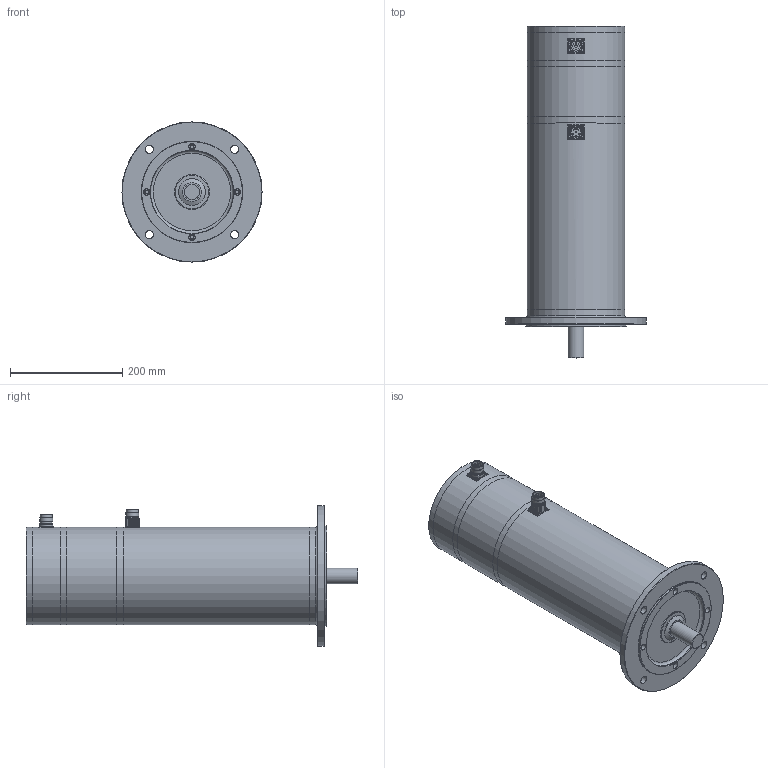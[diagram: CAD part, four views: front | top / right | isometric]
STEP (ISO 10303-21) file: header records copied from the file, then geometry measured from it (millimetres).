
FILE_DESCRIPTION(/* description */ (''),/* implementation_level */ '2;1');
FILE_NAME(/* name */ 'ksa_8x20e_mc_ixx',/* time_stamp */ '2007-03-14T10:42:39+01:00',/* author */ (''),/* organization */ (''),/* preprocessor_version */ 'ST-DEVELOPER v8',/* originating_system */ 'UNIGRAPHICS SOLUTIONS - UNIGRAPHICS 18.0',/* authorisation */ '');
FILE_SCHEMA (('AUTOMOTIVE_DESIGN { 1 2 10303 214 0 1 1 1 }'));
Length unit declared in the file: millimetre
Products named in the file (12): 014261_0; 064305_0; 089286_0; 089285_0; 118030_0; 014260_0; 06331401_0; DIN3760_org_A30x42x7_0; Rotor_SA 84.. E_0; Gehaeuse SA 84.. E_0; 118025_0; KSA8412_E-MC-I27_0
Assembly tree (12 placements, depth 2):
  KSA8412_E-MC-I27_0
    118025_0
    Gehaeuse SA 84.. E_0
    Rotor_SA 84.. E_0
    DIN3760_org_A30x42x7_0
    06331401_0
    014260_0
    118030_0  x2
    089285_0
    089286_0
    064305_0
    014261_0
Bounding box: 250 x 592 x 250 mm (x, y, z)
Volume: 5440632.3 mm3; surface area: 850936.9 mm2
Topology: 12 solids, 12 shells, 300 faces, 731 edges, 465 vertices
Faces by surface type: cylinder 146, plane 81, cone 35, sphere 20, torus 18
Full cylindrical faces by diameter (mm): 1 x16, 2 x4, 2.7 x8, 6.4 x4, 11 x4, 14 x4, 18 x2, 20 x4, 21 x2, 21.5 x2, 23 x4, 24 x1, 27.52 x1, 27.9 x1, 28 x1, 30 x2, 30.3 x1, 38 x1, 39 x1, 42 x2, 48 x1, 56 x1, 60 x1, 62 x1, 140 x1, 148 x1, 150 x2, 151 x2, 174 x7, 180 x1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
Entity records: 7712 total; most frequent: DIRECTION 1444, CARTESIAN_POINT 1199, ORIENTED_EDGE 940, AXIS2_PLACEMENT_3D 665, EDGE_LOOP 530, EDGE_CURVE 470, VERTEX_POINT 386, CIRCLE 355
